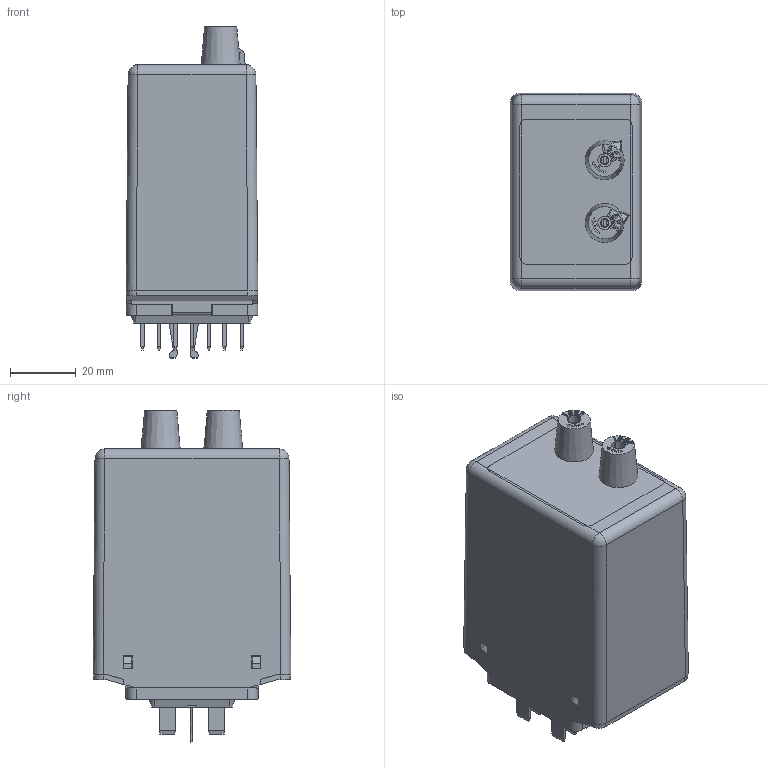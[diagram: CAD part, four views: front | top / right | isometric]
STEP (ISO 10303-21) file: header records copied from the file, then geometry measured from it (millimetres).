
FILE_DESCRIPTION((''),'2;1');
FILE_NAME('I:\TI\Bibliotheek\Inventor\Relais\ACTD4\ACTD4-U200 variable.stp','2011-03-07T15:14:25',('oey'),(''),'Autodesk Inventor 2011','Autodesk Inventor 2011','');
FILE_SCHEMA(('AUTOMOTIVE_DESIGN { 1 0 10303 214 1 1 1 1 }'));
Length unit declared in the file: millimetre
Products named in the file (1): ACTD4-U200 variable
Bounding box: 40 x 60.01 x 100.75 mm (x, y, z)
Volume: 44522.1 mm3; surface area: 48311.8 mm2
Topology: 1 solids, 3 shells, 1782 faces, 5279 edges, 3443 vertices
Faces by surface type: plane 1083, cylinder 451, bspline 164, sphere 64, cone 18, torus 2
Full cylindrical faces by diameter (mm): 1.7 x2, 2 x3, 2.2 x2, 2.69 x1, 2.7 x5, 3.3 x1, 3.5 x1, 4 x8, 4.5 x1, 5 x1, 5.4 x2, 6 x2
Entity records: 63134 total; most frequent: CARTESIAN_POINT 13102, ORIENTED_EDGE 10610, DIRECTION 9455, EDGE_CURVE 5305, VECTOR 3749, LINE 3749, VERTEX_POINT 3428, AXIS2_PLACEMENT_3D 2853
